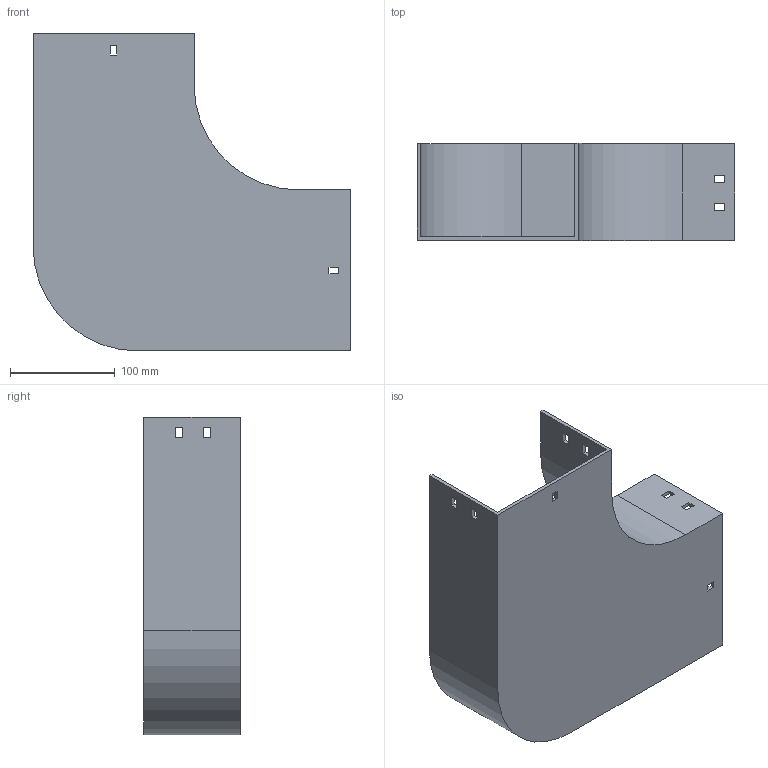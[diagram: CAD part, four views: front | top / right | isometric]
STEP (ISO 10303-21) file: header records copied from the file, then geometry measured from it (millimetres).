
FILE_DESCRIPTION (( 'STEP AP214' ), '1' );
FILE_NAME ('10B1I150.step', '2025-02-21T09:42:02', ( '' ), ( '' ), 'SwSTEP 2.0', 'SolidWorks 2023', '' );
FILE_SCHEMA (( 'AUTOMOTIVE_DESIGN' ));
Length unit declared in the file: millimetre
Products named in the file (1): 10B1I150
Bounding box: 304 x 92.5 x 304 mm (x, y, z)
Volume: 498439.1 mm3; surface area: 291192.9 mm2
Topology: 1 solids, 1 shells, 58 faces, 168 edges, 112 vertices
Faces by surface type: plane 54, cylinder 4
Entity records: 1943 total; most frequent: CARTESIAN_POINT 339, ORIENTED_EDGE 336, DIRECTION 294, EDGE_CURVE 168, LINE 160, VECTOR 160, VERTEX_POINT 112, EDGE_LOOP 78
